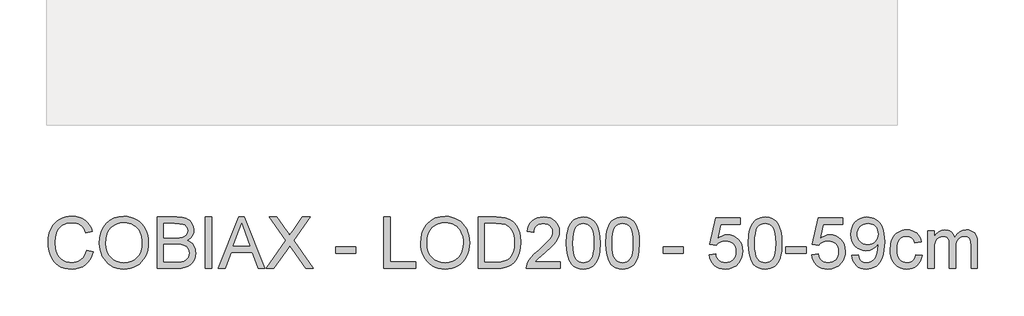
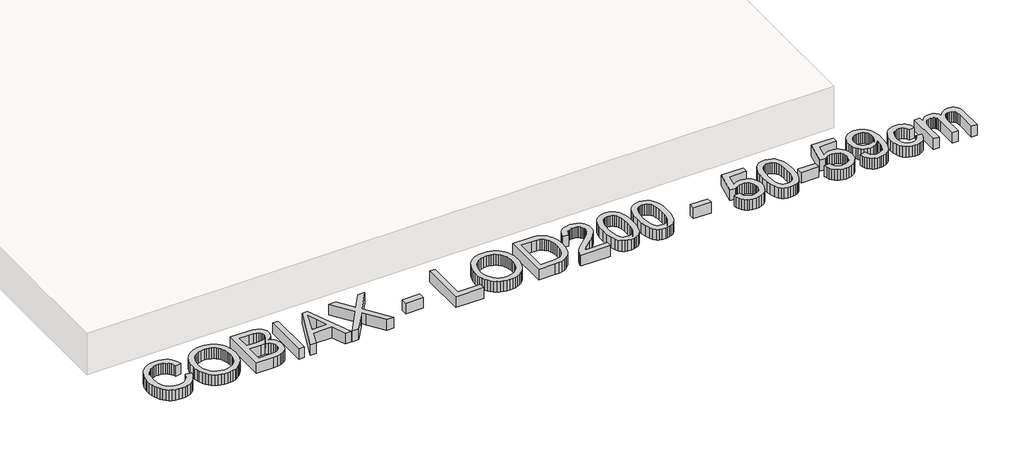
# One storey, part 5 of 6: 1 proxy.
"""IFC4 building model written with IfcOpenShell, lengths in millimetres."""

from ifc_helpers import new_model, si_unit, origin, origin_with_axes, place, context, project, spatial, polyline, outline, extrude, element, save

model = new_model("IFC4")

# Units and contexts
model_context = context("Model", 3, world=origin())
ifc_project = project(units=[si_unit("LENGTHUNIT", "METRE", prefix="MILLI")], contexts=[model_context])

# Site, building, storey
site = spatial("IfcSite", under=ifc_project)
building = spatial("IfcBuilding", under=site)
storey = spatial("IfcBuildingStorey", under=building, Name="COBIAX Slabs", Elevation=0.0)

# Proxy
placement = place(None, origin())
element("IfcBuildingElementProxy", 1, Name="600mm Arial", ObjectType="600mm Arial", at=placement, inside=storey, context=model_context, shape_type="SweptSolid", body=[
    extrude(outline(polyline([(39798.2153953, -6620.9127725), (39873.5576279, -6640.3369419), (39858.64921, -6687.1913125), (39838.7927794, -6728.13198), (39813.9883358, -6763.1589445), (39784.2358795, -6792.2722059), (39750.2067949, -6815.1590645), (39712.5724668, -6831.5068207), (39671.3328952, -6841.3154744), (39626.4880799, -6844.5850256), (39580.5442173, -6842.1110192), (39539.097712, -6834.6889999), (39502.1485641, -6822.3189678), (39469.6967736, -6805.0009229), (39441.2962836, -6782.9923826), (39416.5010371, -6756.5508642), (39395.3110342, -6725.6763677), (39377.7262748, -6690.3688932), (39363.9169044, -6652.155151), (39354.0530684, -6612.5618512), (39348.1347668, -6571.588994), (39346.1619996, -6529.2365793), (39348.3922842, -6483.7939559), (39355.083138, -6441.3495707), (39366.234561, -6401.9034238), (39381.8465531, -6365.4555151), (39401.5696266, -6332.6082514), (39425.0542935, -6303.9640396), (39452.3005538, -6279.5228795), (39483.3084074, -6259.2847713), (39517.0247923, -6243.4152617), (39552.3966461, -6232.0798977), (39589.4239689, -6225.2786793), (39628.1067607, -6223.0116065), (39671.1995379, -6225.9454655), (39710.7146627, -6234.7470422), (39746.6521351, -6249.4163368), (39779.0119551, -6269.9533491), (39807.2606938, -6295.8154534), (39830.8649224, -6326.4600236), (39849.8246407, -6361.8870597), (39864.1398488, -6402.0965618), (39788.7976162, -6420.0492032), (39776.9334219, -6390.420907), (39762.6779946, -6365.1060272), (39746.0313343, -6344.1045638), (39726.993441, -6327.4165168), (39705.4539502, -6314.7015953), (39681.3024972, -6305.6195086), (39654.5390821, -6300.1702565), (39625.1637048, -6298.3538392), (39591.3645465, -6300.3679931), (39560.4532618, -6306.4104549), (39532.4298508, -6316.4812245), (39507.2943135, -6330.5803019), (39485.3639481, -6348.0730908), (39466.9560527, -6368.3249946), (39452.0706275, -6391.3360134), (39440.7076724, -6417.1061472), (39426.3050923, -6472.2516583), (39421.5042322, -6529.0894265), (39427.1880091, -6598.6927), (39434.2927301, -6629.9626696), (39444.2393395, -6658.8781944), (39457.1887858, -6684.8644589), (39473.3020171, -6707.3466473), (39492.5790337, -6726.3247597), (39515.0198354, -6741.7987961), (39539.5345719, -6753.8055448), (39565.0333926, -6762.3817938), (39591.5162978, -6767.5275432), (39618.9832872, -6769.242793), (39651.7385804, -6766.9067423), (39681.8727143, -6759.8985903), (39709.385689, -6748.218337), (39734.2775045, -6731.8659823), (39755.9595496, -6710.9151027), (39773.8432131, -6685.4392745), (39787.928495, -6655.4384978), (39798.2153953, -6620.9127725)])), origin_with_axes(), (0.0, 0.0, 1.0), 150.0),
    extrude(outline(polyline([(39948.8998605, -6541.7445672), (39953.9214497, -6471.0468447), (39968.9862175, -6408.4609203), (39994.0941636, -6353.9867939), (40010.4143286, -6329.7916549), (40029.2452883, -6307.6244654), (40072.3334669, -6270.6063397), (40121.2525753, -6244.1648213), (40176.0026132, -6228.2999102), (40236.5835807, -6223.0116065), (40277.1333737, -6225.49481), (40315.6414215, -6232.9444204), (40352.1077243, -6245.3604378), (40386.532282, -6262.742862), (40417.9494044, -6284.5674614), (40445.3934012, -6310.310004), (40468.8642725, -6339.9704899), (40488.3620182, -6373.548919), (40503.6843033, -6410.2819362), (40514.6287927, -6449.4061864), (40521.1954863, -6490.9216695), (40523.3843842, -6534.8283857), (40521.0805232, -6579.3145159), (40514.1689402, -6621.3910191), (40502.6496352, -6661.0578953), (40486.5226083, -6698.3151443), (40466.1695369, -6732.178682), (40441.9720986, -6761.6644239), (40413.9302936, -6786.7723701), (40382.0441216, -6807.5025205), (40347.5689802, -6823.7261165), (40311.7602665, -6835.3143993), (40274.6179805, -6842.267369), (40236.1421223, -6844.5850256), (40194.8841566, -6842.0236472), (40155.870271, -6834.339512), (40119.1004656, -6821.5326201), (40084.5747403, -6803.6029713), (40053.1944061, -6781.2449431), (40025.8607739, -6755.1529126), (40002.5738436, -6725.3268798), (39983.3336153, -6691.7668448), (39968.2688476, -6655.8201753), (39957.5082992, -6618.8342393), (39951.0519702, -6580.8090365), (39948.8998605, -6541.7445672)]), holes=[polyline([(40024.2420931, -6542.4803312), (40028.0082851, -6592.4295091), (40039.3068608, -6636.7684865), (40058.1378205, -6675.4972636), (40084.5011639, -6708.6158402), (40116.5482842, -6735.140132), (40152.4305743, -6754.0860548), (40192.1480343, -6765.4536084), (40235.700664, -6769.242793), (40279.9982547, -6765.4168202), (40320.1847641, -6753.938902), (40356.2601923, -6734.8090382), (40388.2245392, -6708.027229), (40414.3947446, -6674.2096766), (40433.0877485, -6633.9725834), (40444.3035508, -6587.3159493), (40448.0421516, -6534.2397745), (40446.4418649, -6499.7600345), (40441.6410049, -6467.5427687), (40433.6395715, -6437.5879773), (40422.4375647, -6409.8956601), (40408.1591448, -6384.8291007), (40390.9284718, -6362.7515824), (40370.7455459, -6343.6631054), (40347.6103669, -6327.5636696), (40322.2403048, -6314.7843688), (40295.3527295, -6305.6562968), (40266.9476409, -6300.1794536), (40237.0250391, -6298.3538392), (40194.9853241, -6301.8717107), (40155.9806356, -6312.4253255), (40120.0109735, -6330.0146834), (40087.0763379, -6354.6397844), (40059.5863558, -6387.4870481), (40039.9506543, -6429.7428937), (40028.1692334, -6481.4073214), (40024.2420931, -6542.4803312)])]), origin_with_axes(), (0.0, 0.0, 1.0), 150.0),
    extrude(outline(polyline([(40626.979954, -6835.1672465), (40626.979954, -6232.4293856), (40856.9797774, -6232.4293856), (40920.2370865, -6236.8623637), (40969.6252443, -6250.1612978), (40989.7024042, -6260.2182718), (41007.4803016, -6272.6572818), (41022.9589366, -6287.4783277), (41036.1383091, -6304.6814095), (41054.1829209, -6342.3525258), (41060.1977915, -6381.7894757), (41055.1394141, -6418.0810345), (41039.9642818, -6452.2020895), (41014.56203, -6482.0557135), (40978.8222942, -6505.5449788), (41001.562, -6515.2386694), (41021.5149998, -6527.8386278), (41038.6812934, -6543.3448538), (41053.0608808, -6561.7573477), (41064.423836, -6582.5150893), (41072.5402325, -6605.0570585), (41077.4100704, -6629.3832555), (41079.0333497, -6655.4936801), (41074.6003717, -6697.524198), (41061.3014375, -6736.5012954), (41041.4542039, -6769.6474632), (41017.3763273, -6794.1851923), (40987.8905854, -6811.9538926), (40951.8197558, -6824.7929743), (40907.986616, -6832.5736785), (40855.2139438, -6835.1672465), (40626.979954, -6835.1672465)]), holes=[polyline([(40702.3221866, -6477.2916416), (40839.9100528, -6477.2916416), (40888.0290178, -6475.6729608), (40920.2554806, -6470.8169185), (40948.3800591, -6459.6516999), (40968.5951747, -6442.9314633), (40980.7904629, -6420.9137259), (40984.8555589, -6393.8560051), (40981.0663744, -6367.5892307), (40969.6988207, -6344.7069706), (40951.2679328, -6326.8462997), (40926.2887453, -6315.6442929), (40887.9554414, -6309.7397869), (40829.4622042, -6307.7716182), (40702.3221866, -6307.7716182), (40702.3221866, -6477.2916416)]), polyline([(40702.3221866, -6759.8250139), (40856.8326246, -6759.8250139), (40912.7506879, -6756.8819579), (40938.7047626, -6750.3520525), (40960.0603125, -6740.474421), (40977.4243426, -6726.3293582), (40991.4038584, -6706.9971594), (41000.6193024, -6683.3423471), (41003.6911171, -6656.2294441), (41000.0858735, -6624.7387453), (40989.2701429, -6597.6626304), (40970.3794024, -6576.4910216), (40942.5491295, -6562.7138409), (40903.1305737, -6555.1538659), (40849.4749847, -6552.6338742), (40702.3221866, -6552.6338742), (40702.3221866, -6759.8250139)])]), origin_with_axes(), (0.0, 0.0, 1.0), 150.0),
    extrude(outline(polyline([(41192.0466986, -6835.1672465), (41192.0466986, -6232.4293856), (41267.3889312, -6232.4293856), (41267.3889312, -6835.1672465), (41192.0466986, -6835.1672465)])), origin_with_axes(), (0.0, 0.0, 1.0), 150.0),
    extrude(outline(polyline([(41347.8815118, -6835.1672465), (41588.4763366, -6232.4293856), (41652.6349566, -6232.4293856), (41893.2297814, -6835.1672465), (41813.6201177, -6835.1672465), (41744.6054554, -6646.811665), (41496.358685, -6646.811665), (41427.4911755, -6835.1672465), (41347.8815118, -6835.1672465)]), holes=[polyline([(41524.0234111, -6571.4694324), (41717.0878821, -6571.4694324), (41662.7884996, -6423.2865647), (41620.5556466, -6307.7716182), (41583.0316831, -6410.3371185), (41524.0234111, -6571.4694324)])]), origin_with_axes(), (0.0, 0.0, 1.0), 150.0),
    extrude(outline(polyline([(41907.7979084, -6835.1672465), (42140.1521766, -6506.7222012), (41945.4690247, -6232.4293856), (42035.8208428, -6232.4293856), (42145.4496773, -6386.7926708), (42171.6060872, -6425.8985269), (42182.3850296, -6446.9781652), (42225.6479523, -6385.7626012), (42334.0995644, -6232.4293856), (42425.7757576, -6232.4293856), (42231.0926058, -6507.605118), (42463.4468739, -6835.1672465), (42373.0950559, -6835.1672465), (42218.2903124, -6616.7924942), (42186.0638496, -6571.4694324), (42150.6000252, -6621.2070781), (41999.4741016, -6835.1672465), (41907.7979084, -6835.1672465)])), origin_with_axes(), (0.0, 0.0, 1.0), 150.0),
    extrude(outline(polyline([(42727.1446881, -6656.2294441), (42727.1446881, -6580.8872115), (42962.589165, -6580.8872115), (42962.589165, -6656.2294441), (42727.1446881, -6656.2294441)])), origin_with_axes(), (0.0, 0.0, 1.0), 150.0),
    extrude(outline(polyline([(43292.2114327, -6835.1672465), (43292.2114327, -6232.4293856), (43367.5536653, -6232.4293856), (43367.5536653, -6759.8250139), (43668.9225957, -6759.8250139), (43668.9225957, -6835.1672465), (43292.2114327, -6835.1672465)])), origin_with_axes(), (0.0, 0.0, 1.0), 150.0),
    extrude(outline(polyline([(43725.4292702, -6541.7445672), (43730.4508594, -6471.0468447), (43745.5156271, -6408.4609203), (43770.6235733, -6353.9867939), (43786.9437383, -6329.7916549), (43805.7746979, -6307.6244654), (43848.8628766, -6270.6063397), (43897.7819849, -6244.1648213), (43952.5320229, -6228.2999102), (44013.1129904, -6223.0116065), (44053.6627833, -6225.49481), (44092.1708312, -6232.9444204), (44128.637134, -6245.3604378), (44163.0616917, -6262.742862), (44194.4788141, -6284.5674614), (44221.9228109, -6310.310004), (44245.3936822, -6339.9704899), (44264.8914279, -6373.548919), (44280.213713, -6410.2819362), (44291.1582024, -6449.4061864), (44297.724896, -6490.9216695), (44299.9137939, -6534.8283857), (44297.6099329, -6579.3145159), (44290.6983499, -6621.3910191), (44279.1790449, -6661.0578953), (44263.052018, -6698.3151443), (44242.6989466, -6732.178682), (44218.5015083, -6761.6644239), (44190.4597033, -6786.7723701), (44158.5735313, -6807.5025205), (44124.0983898, -6823.7261165), (44088.2896761, -6835.3143993), (44051.1473902, -6842.267369), (44012.671532, -6844.5850256), (43971.4135663, -6842.0236472), (43932.3996807, -6834.339512), (43895.6298753, -6821.5326201), (43861.10415, -6803.6029713), (43829.7238158, -6781.2449431), (43802.3901836, -6755.1529126), (43779.1032533, -6725.3268798), (43759.8630249, -6691.7668448), (43744.7982572, -6655.8201753), (43734.0377089, -6618.8342393), (43727.5813799, -6580.8090365), (43725.4292702, -6541.7445672)]), holes=[polyline([(43800.7715028, -6542.4803312), (43804.5376947, -6592.4295091), (43815.8362705, -6636.7684865), (43834.6672301, -6675.4972636), (43861.0305736, -6708.6158402), (43893.0776939, -6735.140132), (43928.959984, -6754.0860548), (43968.6774439, -6765.4536084), (44012.2300736, -6769.242793), (44056.5276644, -6765.4168202), (44096.7141738, -6753.938902), (44132.789602, -6734.8090382), (44164.7539488, -6708.027229), (44190.9241543, -6674.2096766), (44209.6171582, -6633.9725834), (44220.8329605, -6587.3159493), (44224.5715613, -6534.2397745), (44222.9712746, -6499.7600345), (44218.1704145, -6467.5427687), (44210.1689811, -6437.5879773), (44198.9669744, -6409.8956601), (44184.6885545, -6384.8291007), (44167.4578815, -6362.7515824), (44147.2749555, -6343.6631054), (44124.1397766, -6327.5636696), (44098.7697145, -6314.7843688), (44071.8821392, -6305.6562968), (44043.4770506, -6300.1794536), (44013.5544488, -6298.3538392), (43971.5147338, -6301.8717107), (43932.5100453, -6312.4253255), (43896.5403832, -6330.0146834), (43863.6057476, -6354.6397844), (43836.1157655, -6387.4870481), (43816.480064, -6429.7428937), (43804.6986431, -6481.4073214), (43800.7715028, -6542.4803312)])]), origin_with_axes(), (0.0, 0.0, 1.0), 150.0),
    extrude(outline(polyline([(44403.5093637, -6835.1672465), (44403.5093637, -6232.4293856), (44611.4362674, -6232.4293856), (44673.5715364, -6234.5998894), (44719.0049628, -6241.1114007), (44767.0503513, -6257.8500315), (44807.5909472, -6284.2271705), (44829.9305814, -6305.7850555), (44849.2719773, -6330.1388435), (44865.6151349, -6357.2885348), (44878.9600543, -6387.2341292), (44889.3251295, -6419.6997153), (44896.7287546, -6454.4093815), (44902.6516548, -6530.5609545), (44898.641741, -6595.2530034), (44886.6119998, -6652.1827421), (44868.2914764, -6700.651195), (44845.4092163, -6739.9593862), (44819.0688655, -6770.9902325), (44790.3740698, -6794.6266507), (44757.4302372, -6812.1562277), (44718.3427752, -6824.8665507), (44673.0381075, -6832.5920726), (44621.4426577, -6835.1672465), (44403.5093637, -6835.1672465)]), holes=[polyline([(44478.8515963, -6759.8250139), (44612.1720314, -6759.8250139), (44667.3175425, -6757.1026871), (44709.1457253, -6748.9357069), (44740.7100005, -6735.8023196), (44765.0637886, -6718.1807721), (44791.2385925, -6685.5680332), (44810.9018852, -6643.3535742), (44823.2075379, -6591.3534542), (44827.3094222, -6529.3837321), (44825.2998668, -6485.6425629), (44819.2712006, -6447.2724708), (44809.2234236, -6414.2734558), (44795.1565358, -6386.645518), (44778.2109714, -6363.7632579), (44759.5271645, -6345.0012761), (44739.1051153, -6330.3595727), (44716.9448236, -6319.8381477), (44673.6083246, -6310.7882506), (44610.1118922, -6307.7716182), (44478.8515963, -6307.7716182), (44478.8515963, -6759.8250139)])]), origin_with_axes(), (0.0, 0.0, 1.0), 150.0),
    extrude(outline(polyline([(45364.1228295, -6759.8250139), (45364.1228295, -6835.1672465), (44968.5761083, -6835.1672465), (44970.2315773, -6808.6429547), (44976.6695122, -6783.2223088), (44995.247553, -6742.6265306), (45022.4340324, -6703.2447631), (45061.7606177, -6662.0235855), (45116.758976, -6615.9095774), (45198.0608969, -6543.6943417), (45246.8420495, -6490.3882406), (45261.0698856, -6468.6096265), (45271.2326257, -6447.125318), (45277.3302698, -6425.9353151), (45279.3628178, -6405.0396178), (45277.4452329, -6385.3809236), (45271.6924782, -6367.3133192), (45262.1045537, -6350.8368043), (45248.6814594, -6335.9513791), (45232.1681564, -6323.6227337), (45213.3096056, -6314.8165584), (45192.1058071, -6309.5328533), (45168.5567609, -6307.7716182), (45143.7477188, -6309.4914666), (45121.559836, -6314.6510115), (45101.9931124, -6323.2502532), (45085.047548, -6335.2891915), (45071.3393451, -6350.3631562), (45061.4847062, -6368.0674772), (45055.4836311, -6388.4021545), (45053.33612, -6411.3671881), (44977.9938874, -6401.949409), (44984.473209, -6363.0550851), (44996.2592284, -6329.0719858), (45013.3519456, -6300.0001111), (45035.7513606, -6275.8394611), (45062.9424386, -6256.8475531), (45094.4101448, -6243.2819045), (45130.1544791, -6235.1425153), (45170.1754417, -6232.4293856), (45210.5550892, -6235.446018), (45246.4925616, -6244.4959151), (45277.9878589, -6259.5790769), (45305.0409811, -6280.6955034), (45326.7690114, -6306.2816962), (45342.2890331, -6334.7741567), (45351.6010461, -6366.172885), (45354.7050504, -6400.477881), (45351.3573243, -6436.5119224), (45341.3141458, -6471.9205645), (45323.4902631, -6507.9362118), (45296.8004244, -6545.7912691), (45254.2548717, -6590.9855722), (45188.863847, -6649.018957), (45102.190849, -6721.49171), (45068.1985526, -6759.8250139), (45364.1228295, -6759.8250139)])), origin_with_axes(), (0.0, 0.0, 1.0), 150.0),
    extrude(outline(polyline([(45439.4650621, -6538.6543584), (45445.0016862, -6442.1773052), (45451.9224662, -6401.2642288), (45461.6115582, -6365.2347859), (45474.0275756, -6333.7946709), (45489.1291315, -6306.6495782), (45506.9162259, -6283.7995077), (45527.388859, -6265.2444596), (45550.6160084, -6250.8878647), (45576.6666522, -6240.6331541), (45605.5407903, -6234.4803277), (45637.2384227, -6232.4293856), (45683.6651305, -6237.285428), (45725.235796, -6251.853555), (45760.0006445, -6275.5635496), (45786.0099016, -6307.8451946), (45805.6548001, -6348.4225787), (45821.3265731, -6397.0197903), (45831.5904808, -6458.731995), (45835.0117833, -6538.6543584), (45829.5303416, -6634.5795887), (45822.6785395, -6675.3547093), (45813.0860164, -6711.3381669), (45800.7665681, -6742.7920775), (45785.7339901, -6769.978557), (45767.9882823, -6792.8976053), (45747.5294449, -6811.5492224), (45724.2747043, -6826.0023863), (45698.141287, -6836.3260748), (45669.1291932, -6842.5202879), (45637.2384227, -6844.5850256), (45595.7413337, -6840.9981761), (45558.9531342, -6830.2376278), (45526.8738242, -6812.3033805), (45499.5034037, -6787.1954344), (45473.2366293, -6741.8079932), (45454.4746475, -6685.2553335), (45443.2174585, -6617.5374552), (45439.4650621, -6538.6543584)]), holes=[polyline([(45514.8072947, -6538.5072056), (45517.0145867, -6604.0039963), (45523.6364626, -6657.0203904), (45534.6729225, -6697.5563877), (45550.1239663, -6725.6119884), (45568.8123716, -6744.7004654), (45589.5609162, -6758.3350918), (45612.3695999, -6766.5158677), (45637.2384227, -6769.242793), (45662.1072456, -6766.5066706), (45684.9159293, -6758.2983036), (45705.6644738, -6744.6176919), (45724.3528792, -6725.4648356), (45739.803923, -6697.3632497), (45750.8403828, -6656.8364494), (45757.4622588, -6603.8844347), (45759.6695507, -6538.5072056), (45757.5358352, -6474.7440588), (45751.1346884, -6422.6611653), (45740.4661106, -6382.2585252), (45725.5301016, -6353.5361384), (45707.1543959, -6333.5141609), (45686.1667281, -6319.2127483), (45662.5670981, -6310.6319008), (45636.3555059, -6307.7716182), (45611.6154418, -6310.2916099), (45589.1930342, -6317.8515849), (45569.0882831, -6330.4515432), (45551.3011887, -6348.0914849), (45535.3351101, -6379.3614545), (45523.9307682, -6421.5207311), (45517.0881631, -6474.5693149), (45514.8072947, -6538.5072056)])]), origin_with_axes(), (0.0, 0.0, 1.0), 150.0),
    extrude(outline(polyline([(45900.9362369, -6538.6543584), (45906.4728609, -6442.1773052), (45913.3936409, -6401.2642288), (45923.082733, -6365.2347859), (45935.4987503, -6333.7946709), (45950.6003062, -6306.6495782), (45968.3874007, -6283.7995077), (45988.8600337, -6265.2444596), (46012.0871832, -6250.8878647), (46038.137827, -6240.6331541), (46067.0119651, -6234.4803277), (46098.7095975, -6232.4293856), (46145.1363053, -6237.285428), (46186.7069707, -6251.853555), (46221.4718193, -6275.5635496), (46247.4810763, -6307.8451946), (46267.1259749, -6348.4225787), (46282.7977479, -6397.0197903), (46293.0616555, -6458.731995), (46296.4829581, -6538.6543584), (46291.0015164, -6634.5795887), (46284.1497142, -6675.3547093), (46274.5571912, -6711.3381669), (46262.2377429, -6742.7920775), (46247.2051648, -6769.978557), (46229.4594571, -6792.8976053), (46209.0006196, -6811.5492224), (46185.745879, -6826.0023863), (46159.6124618, -6836.3260748), (46130.6003679, -6842.5202879), (46098.7095975, -6844.5850256), (46057.2125084, -6840.9981761), (46020.4243089, -6830.2376278), (45988.3449989, -6812.3033805), (45960.9745785, -6787.1954344), (45934.707804, -6741.8079932), (45915.9458223, -6685.2553335), (45904.6886332, -6617.5374552), (45900.9362369, -6538.6543584)]), holes=[polyline([(45976.2784695, -6538.5072056), (45978.4857615, -6604.0039963), (45985.1076374, -6657.0203904), (45996.1440972, -6697.5563877), (46011.595141, -6725.6119884), (46030.2835464, -6744.7004654), (46051.0320909, -6758.3350918), (46073.8407746, -6766.5158677), (46098.7095975, -6769.242793), (46123.5784204, -6766.5066706), (46146.3871041, -6758.2983036), (46167.1356486, -6744.6176919), (46185.8240539, -6725.4648356), (46201.2750977, -6697.3632497), (46212.3115576, -6656.8364494), (46218.9334335, -6603.8844347), (46221.1407255, -6538.5072056), (46219.0070099, -6474.7440588), (46212.6058632, -6422.6611653), (46201.9372853, -6382.2585252), (46187.0012763, -6353.5361384), (46168.6255707, -6333.5141609), (46147.6379028, -6319.2127483), (46124.0382729, -6310.6319008), (46097.8266807, -6307.7716182), (46073.0866165, -6310.2916099), (46050.6642089, -6317.8515849), (46030.5594579, -6330.4515432), (46012.7723634, -6348.0914849), (45996.8062848, -6379.3614545), (45985.401943, -6421.5207311), (45978.5593379, -6474.5693149), (45976.2784695, -6538.5072056)])]), origin_with_axes(), (0.0, 0.0, 1.0), 150.0),
    extrude(outline(polyline([(46579.0163304, -6656.2294441), (46579.0163304, -6580.8872115), (46814.4608073, -6580.8872115), (46814.4608073, -6656.2294441), (46579.0163304, -6656.2294441)])), origin_with_axes(), (0.0, 0.0, 1.0), 150.0),
    extrude(outline(polyline([(47115.8297378, -6675.0650022), (47191.1719704, -6665.6472231), (47196.8005649, -6689.867654), (47205.0043334, -6710.8783145), (47215.7832758, -6728.6792045), (47229.1373923, -6743.2703241), (47245.0390915, -6754.6332793), (47263.4607824, -6762.7496758), (47284.402465, -6767.6195137), (47307.8641392, -6769.242793), (47336.5589349, -6766.9849172), (47361.8692161, -6760.21129), (47383.794983, -6748.9219113), (47402.3362356, -6733.1167811), (47417.0791066, -6713.5776486), (47427.6097287, -6691.0862631), (47433.9281019, -6665.6426246), (47436.0342264, -6637.2467331), (47434.0614592, -6610.4097416), (47428.1431576, -6586.5525942), (47418.2793216, -6565.675291), (47404.4699512, -6547.7778319), (47386.6690611, -6533.421237), (47364.8306662, -6523.1665264), (47338.9547664, -6517.0137), (47309.0413616, -6514.9627579), (47272.4922854, -6518.2369077), (47242.8961789, -6528.0593569), (47219.2597607, -6543.1057306), (47200.5897494, -6562.0516533), (47125.2475168, -6552.6338742), (47191.1719704, -6241.8471647), (47483.1231217, -6241.8471647), (47483.1231217, -6317.1893973), (47252.0932288, -6317.1893973), (47219.866766, -6483.1777535), (47246.4554372, -6464.1214662), (47273.6879019, -6450.5098324), (47301.5641601, -6442.3428521), (47330.0842117, -6439.6205253), (47366.7758422, -6442.9958426), (47400.4784315, -6453.1217945), (47431.1919796, -6469.9983811), (47458.9164865, -6493.6256022), (47481.8677244, -6522.5595211), (47498.2614658, -6555.356201), (47508.0977107, -6592.0156418), (47511.376459, -6632.5378436), (47508.424206, -6671.5701233), (47499.5674469, -6707.8800762), (47484.8061819, -6741.4677024), (47464.1404108, -6772.3330017), (47432.833653, -6803.9432622), (47396.3029709, -6826.5220196), (47354.5483644, -6840.0692741), (47307.5698336, -6844.5850256), (47268.6893053, -6841.6833564), (47233.5703703, -6832.9783487), (47202.2130287, -6818.4700025), (47174.6172806, -6798.1583178), (47151.6568456, -6773.0549702), (47134.2054434, -6744.171635), (47122.2630741, -6711.5083124), (47115.8297378, -6675.0650022)])), origin_with_axes(), (0.0, 0.0, 1.0), 150.0),
    extrude(outline(polyline([(47577.3009125, -6538.6543584), (47582.8375365, -6442.1773052), (47589.7583166, -6401.2642288), (47599.4474086, -6365.2347859), (47611.8634259, -6333.7946709), (47626.9649818, -6306.6495782), (47644.7520763, -6283.7995077), (47665.2247093, -6265.2444596), (47688.4518588, -6250.8878647), (47714.5025026, -6240.6331541), (47743.3766407, -6234.4803277), (47775.0742731, -6232.4293856), (47821.5009809, -6237.285428), (47863.0716464, -6251.853555), (47897.8364949, -6275.5635496), (47923.845752, -6307.8451946), (47943.4906505, -6348.4225787), (47959.1624235, -6397.0197903), (47969.4263312, -6458.731995), (47972.8476337, -6538.6543584), (47967.366192, -6634.5795887), (47960.5143898, -6675.3547093), (47950.9218668, -6711.3381669), (47938.6024185, -6742.7920775), (47923.5698405, -6769.978557), (47905.8241327, -6792.8976053), (47885.3652953, -6811.5492224), (47862.1105546, -6826.0023863), (47835.9771374, -6836.3260748), (47806.9650436, -6842.5202879), (47775.0742731, -6844.5850256), (47733.5771841, -6840.9981761), (47696.7889845, -6830.2376278), (47664.7096746, -6812.3033805), (47637.3392541, -6787.1954344), (47611.0724797, -6741.8079932), (47592.3104979, -6685.2553335), (47581.0533089, -6617.5374552), (47577.3009125, -6538.6543584)]), holes=[polyline([(47652.6431451, -6538.5072056), (47654.8504371, -6604.0039963), (47661.472313, -6657.0203904), (47672.5087729, -6697.5563877), (47687.9598166, -6725.6119884), (47706.648222, -6744.7004654), (47727.3967665, -6758.3350918), (47750.2054502, -6766.5158677), (47775.0742731, -6769.242793), (47799.943096, -6766.5066706), (47822.7517797, -6758.2983036), (47843.5003242, -6744.6176919), (47862.1887296, -6725.4648356), (47877.6397734, -6697.3632497), (47888.6762332, -6656.8364494), (47895.2981091, -6603.8844347), (47897.5054011, -6538.5072056), (47895.3716855, -6474.7440588), (47888.9705388, -6422.6611653), (47878.301961, -6382.2585252), (47863.3659519, -6353.5361384), (47844.9902463, -6333.5141609), (47824.0025785, -6319.2127483), (47800.4029485, -6310.6319008), (47774.1913563, -6307.7716182), (47749.4512921, -6310.2916099), (47727.0288845, -6317.8515849), (47706.9241335, -6330.4515432), (47689.137039, -6348.0914849), (47673.1709604, -6379.3614545), (47661.7666186, -6421.5207311), (47654.9240135, -6474.5693149), (47652.6431451, -6538.5072056)])]), origin_with_axes(), (0.0, 0.0, 1.0), 150.0),
    extrude(outline(polyline([(48019.9365291, -6656.2294441), (48019.9365291, -6580.8872115), (48255.381006, -6580.8872115), (48255.381006, -6656.2294441), (48019.9365291, -6656.2294441)])), origin_with_axes(), (0.0, 0.0, 1.0), 150.0),
    extrude(outline(polyline([(48321.3054595, -6675.0650022), (48396.6476922, -6665.6472231), (48402.2762867, -6689.867654), (48410.4800552, -6710.8783145), (48421.2589976, -6728.6792045), (48434.6131141, -6743.2703241), (48450.5148133, -6754.6332793), (48468.9365042, -6762.7496758), (48489.8781868, -6767.6195137), (48513.339861, -6769.242793), (48542.0346567, -6766.9849172), (48567.3449379, -6760.21129), (48589.2707048, -6748.9219113), (48607.8119574, -6733.1167811), (48622.5548283, -6713.5776486), (48633.0854505, -6691.0862631), (48639.4038237, -6665.6426246), (48641.5099481, -6637.2467331), (48639.5371809, -6610.4097416), (48633.6188794, -6586.5525942), (48623.7550434, -6565.675291), (48609.945673, -6547.7778319), (48592.1447829, -6533.421237), (48570.306388, -6523.1665264), (48544.4304881, -6517.0137), (48514.5170834, -6514.9627579), (48477.9680072, -6518.2369077), (48448.3719007, -6528.0593569), (48424.7354825, -6543.1057306), (48406.0654712, -6562.0516533), (48330.7232386, -6552.6338742), (48396.6476922, -6241.8471647), (48688.5988435, -6241.8471647), (48688.5988435, -6317.1893973), (48457.5689506, -6317.1893973), (48425.3424878, -6483.1777535), (48451.931159, -6464.1214662), (48479.1636237, -6450.5098324), (48507.0398819, -6442.3428521), (48535.5599335, -6439.6205253), (48572.251564, -6442.9958426), (48605.9541533, -6453.1217945), (48636.6677014, -6469.9983811), (48664.3922082, -6493.6256022), (48687.3434462, -6522.5595211), (48703.7371876, -6555.356201), (48713.5734325, -6592.0156418), (48716.8521808, -6632.5378436), (48713.8999277, -6671.5701233), (48705.0431687, -6707.8800762), (48690.2819037, -6741.4677024), (48669.6161326, -6772.3330017), (48638.3093748, -6803.9432622), (48601.7786927, -6826.5220196), (48560.0240862, -6840.0692741), (48513.0455554, -6844.5850256), (48474.1650271, -6841.6833564), (48439.0460921, -6832.9783487), (48407.6887505, -6818.4700025), (48380.0930024, -6798.1583178), (48357.1325674, -6773.0549702), (48339.6811652, -6744.171635), (48327.7387959, -6711.5083124), (48321.3054595, -6675.0650022)])), origin_with_axes(), (0.0, 0.0, 1.0), 150.0),
    extrude(outline(polyline([(48792.1944134, -6684.4827813), (48867.536646, -6675.0650022), (48880.4125158, -6717.8312842), (48889.8854772, -6734.0962669), (48901.3817895, -6746.9491441), (48914.7726942, -6756.7026155), (48929.9294324, -6763.6693808), (48965.5404095, -6769.242793), (48997.4909608, -6765.6559435), (49026.5352443, -6754.8953952), (49050.6683032, -6738.1383703), (49067.8851806, -6716.5620913), (49080.9265973, -6688.1983894), (49092.5332742, -6651.0790961), (49100.7002545, -6608.4783611), (49103.4225813, -6563.6703341), (49102.9811229, -6548.9550543), (49076.8798953, -6580.8136351), (49042.7220521, -6606.0503399), (49002.9724025, -6622.4946651), (48960.095756, -6627.9761068), (48924.3054364, -6624.6283807), (48891.3937934, -6614.5852022), (48861.360827, -6597.8465714), (48834.2065372, -6574.4124883), (48811.7059547, -6545.5061606), (48795.63411, -6512.3507958), (48785.9910032, -6474.9463939), (48782.7766343, -6433.292955), (48786.1473531, -6390.2507616), (48796.2595094, -6351.6231521), (48813.1131033, -6317.4101265), (48836.7081348, -6287.6116849), (48865.3799378, -6263.469429), (48897.4638463, -6246.2249604), (48932.9598603, -6235.8782793), (48971.8679798, -6232.4293856), (49000.5949651, -6234.3975543), (49028.0619546, -6240.3020603), (49054.2689482, -6250.1429037), (49079.215946, -6263.9200844), (49102.070615, -6281.3392969), (49122.000622, -6302.1062355), (49139.0059673, -6326.2209003), (49153.0866506, -6353.6832912), (49164.127709, -6386.0753009), (49172.0141793, -6424.9788219), (49176.7460615, -6470.3938542), (49178.3233555, -6522.3203978), (49176.75066, -6576.8543051), (49172.0325734, -6625.5296916), (49164.1690957, -6668.3465573), (49153.160227, -6705.3049022), (49139.047354, -6737.3060373), (49121.8718633, -6765.2512733), (49101.6337551, -6789.1406104), (49078.3330292, -6808.9740485), (49052.4387353, -6824.553851), (49024.4199228, -6835.6822813), (48994.2765918, -6842.3593395), (48962.0087423, -6844.5850256), (48928.1727958, -6841.9592679), (48897.592605, -6834.0819946), (48870.2681698, -6820.9532059), (48846.1994903, -6802.5729018), (48825.9935717, -6779.4377228), (48810.2574193, -6752.0443097), (48798.9910332, -6720.3926626), (48792.1944134, -6684.4827813)]), holes=[polyline([(49102.9811229, -6431.5271214), (49100.9485749, -6404.524583), (49094.8509308, -6380.4651005), (49084.6881907, -6359.348674), (49070.4603545, -6341.1753034), (49052.8663981, -6326.5611911), (49032.6052972, -6316.1225395), (49009.6770519, -6309.8593486), (48984.0816621, -6307.7716182), (48957.6677348, -6310.0202969), (48933.7554051, -6316.766333), (48912.344673, -6328.0097265), (48893.4355384, -6343.7504774), (48877.9844946, -6363.0688806), (48866.9480348, -6385.0452313), (48860.3261589, -6409.6795294), (48858.1188669, -6436.9717749), (48860.2065972, -6461.4497232), (48866.4697882, -6483.5272414), (48876.9084398, -6503.2043297), (48891.5225521, -6520.4809878), (48909.7051197, -6534.5478756), (48930.8491374, -6544.5956526), (48954.9546051, -6550.6243188), (48982.0215229, -6552.6338742), (49007.2628263, -6550.6243188), (49030.158882, -6544.5956526), (49050.7096899, -6534.5478756), (49068.9152501, -6520.4809878), (49083.8190695, -6502.8640388), (49094.4646547, -6482.1660781), (49100.8520059, -6458.3871056), (49102.9811229, -6431.5271214)])]), origin_with_axes(), (0.0, 0.0, 1.0), 150.0),
    extrude(outline(polyline([(49545.6167395, -6675.0650022), (49620.9589721, -6684.4827813), (49612.7644007, -6720.0339776), (49599.9529102, -6751.4924867), (49582.5245007, -6778.8583086), (49560.4791721, -6802.1314434), (49534.7458265, -6820.7048856), (49506.253366, -6833.97163), (49475.0017905, -6841.9316767), (49440.9911001, -6844.5850256), (49398.7352544, -6840.883213), (49360.8480074, -6829.7777753), (49327.3293591, -6811.2687124), (49298.1793095, -6785.3560244), (49274.5842781, -6752.5271548), (49257.7306842, -6713.2695474), (49247.6185278, -6667.5832021), (49244.247809, -6615.468119), (49250.0051623, -6548.4216254), (49257.2018538, -6518.2507033), (49267.2772219, -6490.3146642), (49280.3002446, -6465.1745284), (49296.3398996, -6443.3913158), (49315.3961869, -6424.9650263), (49337.4691066, -6409.8956601), (49361.5607788, -6398.1786186), (49386.6733235, -6389.8093032), (49412.8067407, -6384.7877139), (49439.9610305, -6383.1138508), (49473.3877083, -6385.4131133), (49503.6230097, -6392.3109007), (49530.6669349, -6403.8072131), (49554.5194838, -6419.9020504), (49574.7759861, -6440.2275306), (49591.0317718, -6464.4157718), (49603.2868408, -6492.4667739), (49611.541193, -6524.380537), (49536.1989604, -6533.7983161), (49522.5321443, -6500.9280598), (49501.2501709, -6477.365218), (49473.5302625, -6463.1833671), (49440.5496417, -6458.4560835), (49414.9496533, -6460.7829371), (49391.8604596, -6467.7634979), (49371.2820605, -6479.397766), (49353.214456, -6495.6857414), (49338.5037747, -6517.004503), (49327.9961452, -6543.7311299), (49321.6915676, -6575.8656222), (49319.5900417, -6613.4079798), (49321.6455823, -6651.515956), (49327.8122042, -6684.0229288), (49338.0899075, -6710.9288982), (49352.478692, -6732.2338643), (49370.1876116, -6748.4252706), (49390.4257198, -6759.9905608), (49413.1930168, -6766.9297349), (49438.4895025, -6769.242793), (49477.5033881, -6763.4670457), (49494.3753761, -6756.2473615), (49509.4907276, -6746.1398037), (49522.4263782, -6733.0340076), (49532.7592638, -6716.8196087), (49540.4893842, -6697.4966069), (49545.6167395, -6675.0650022)])), origin_with_axes(), (0.0, 0.0, 1.0), 150.0),
    extrude(outline(polyline([(49686.8834256, -6835.1672465), (49686.8834256, -6392.5316299), (49762.2256583, -6392.5316299), (49762.2256583, -6465.372265), (49784.8871892, -6431.9133975), (49814.0234432, -6405.7018054), (49848.6411389, -6388.7608395), (49887.746995, -6383.1138508), (49929.6487543, -6388.8712041), (49947.481834, -6396.0678956), (49963.2363804, -6406.1432637), (49988.3259325, -6433.7895957), (50004.7334695, -6470.6697657), (50032.1958604, -6432.364053), (50063.5210123, -6405.0028296), (50098.7089251, -6388.5860955), (50137.7595989, -6383.1138508), (50167.921324, -6385.3901207), (50194.3950321, -6392.2189302), (50217.1807232, -6403.6002795), (50236.2783972, -6419.5341684), (50251.3753546, -6440.204538), (50262.1588956, -6465.7953293), (50268.6290202, -6496.3065422), (50270.7857284, -6531.7381769), (50270.7857284, -6835.1672465), (50195.4434958, -6835.1672465), (50195.4434958, -6564.1117925), (50193.6960563, -6526.5326467), (50188.4537379, -6501.2039713), (50178.6312886, -6483.8583352), (50163.1434566, -6470.2283073), (50143.2226466, -6461.3991394), (50120.1012632, -6458.4560835), (50098.7503119, -6460.3414787), (50079.2847558, -6465.9976644), (50061.704595, -6475.4246405), (50046.0098293, -6488.6224071), (50033.1017698, -6505.9772402), (50023.8817273, -6527.875416), (50018.3497018, -6554.3169344), (50016.5056933, -6585.3017954), (50016.5056933, -6835.1672465), (49941.1634607, -6835.1672465), (49941.1634607, -6555.724083), (49936.8040591, -6513.1233479), (49931.354807, -6496.4031113), (49923.7258541, -6482.7362951), (49913.6136978, -6472.1137025), (49900.7148353, -6464.5261364), (49885.0292668, -6459.9735967), (49866.5569921, -6458.4560835), (49837.5311027, -6462.5027854), (49810.7860816, -6474.6428912), (49788.7131619, -6494.5820954), (49773.7035765, -6522.0260922), (49765.0951378, -6560.1018787), (49762.2256583, -6611.9364518), (49762.2256583, -6835.1672465), (49686.8834256, -6835.1672465)])), origin_with_axes(), (0.0, 0.0, 1.0), 150.0),
])

save(model, "model.ifc")
